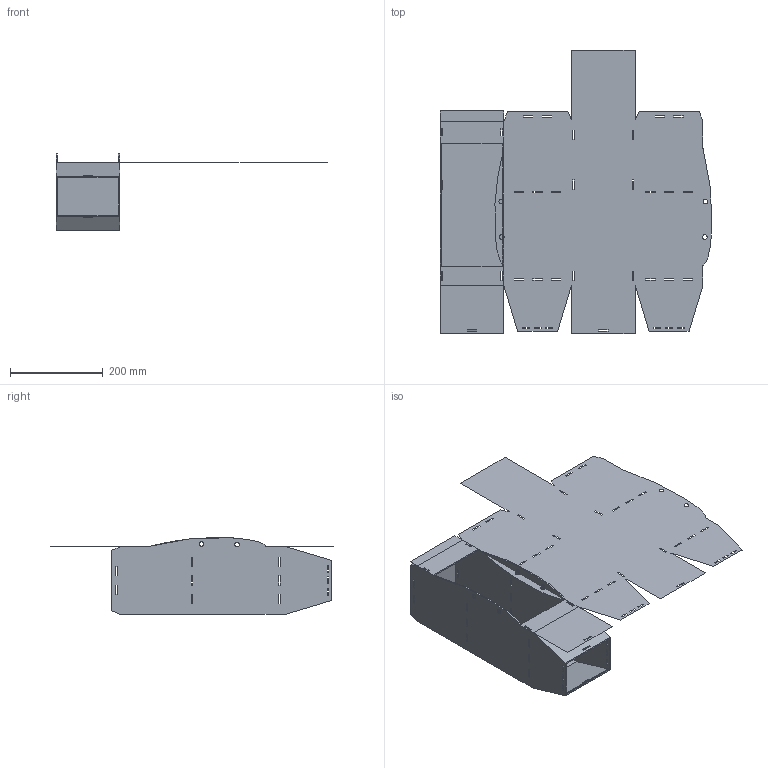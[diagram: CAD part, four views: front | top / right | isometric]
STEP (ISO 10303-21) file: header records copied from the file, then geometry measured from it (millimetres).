
FILE_DESCRIPTION (( 'STEP AP214' ), '1' );
FILE_NAME ('Flatten v21.STEP', '2023-09-02T16:03:55', ( '' ), ( '' ), 'SwSTEP 2.0', 'SolidWorks 2019', '' );
FILE_SCHEMA (( 'AUTOMOTIVE_DESIGN' ));
Length unit declared in the file: millimetre
Products named in the file (1): Flatten v21
Bounding box: 585.25 x 609.18 x 165.11 mm (x, y, z)
Surface area: 746176.4 mm2 (no closed solid volume)
Topology: 0 solids, 2 shells, 164 faces, 720 edges, 548 vertices
Faces by surface type: plane 154, cylinder 8, bspline 2
Entity records: 10642 total; most frequent: CARTESIAN_POINT 4984, ORIENTED_EDGE 1236, DIRECTION 854, EDGE_CURVE 720, VERTEX_POINT 548, LINE 496, VECTOR 496, EDGE_LOOP 269
